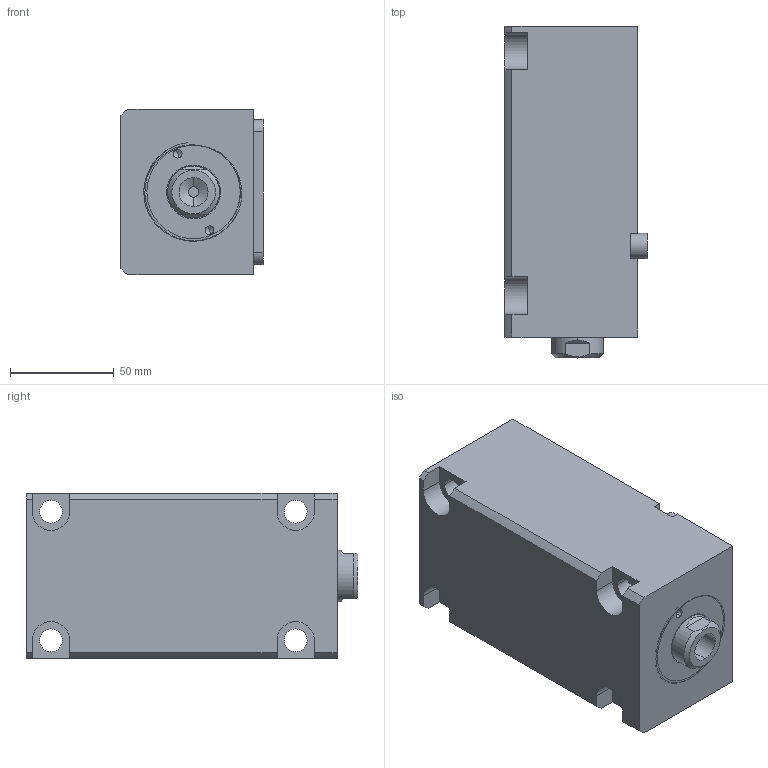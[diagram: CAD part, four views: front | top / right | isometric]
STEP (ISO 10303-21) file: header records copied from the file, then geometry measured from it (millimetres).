
FILE_DESCRIPTION (( 'STEP AP214' ), '1' );
FILE_NAME ('chtb-lam40x95n_asm.STEP', '2018-05-29T08:08:26', ( 'Windows' ), ( 'Microsoft' ), 'SwSTEP 2.0', 'SolidWorks 2015', '' );
FILE_SCHEMA (( 'AUTOMOTIVE_DESIGN' ));
Length unit declared in the file: millimetre
Products named in the file (5): chtb-lam40x95n_asm; CHTB-SD40X95NHSG; CHTB-SD40QG; CHTB-LAM40X95NBT; CHTB-LA40PJ
Assembly tree (4 placements, depth 2):
  chtb-lam40x95n_asm
    CHTB-LA40PJ
    CHTB-LAM40X95NBT
    CHTB-SD40QG
    CHTB-SD40X95NHSG
Bounding box: 68.5 x 160 x 80 mm (x, y, z)
Volume: 657925.8 mm3; surface area: 111577.1 mm2
Topology: 4 solids, 4 shells, 154 faces, 418 edges, 278 vertices
Faces by surface type: cylinder 73, plane 46, bspline 14, torus 12, cone 9
Entity records: 10092 total; most frequent: CARTESIAN_POINT 6074, ORIENTED_EDGE 824, DIRECTION 755, EDGE_CURVE 412, AXIS2_PLACEMENT_3D 300, VERTEX_POINT 278, EDGE_LOOP 180, LINE 155
